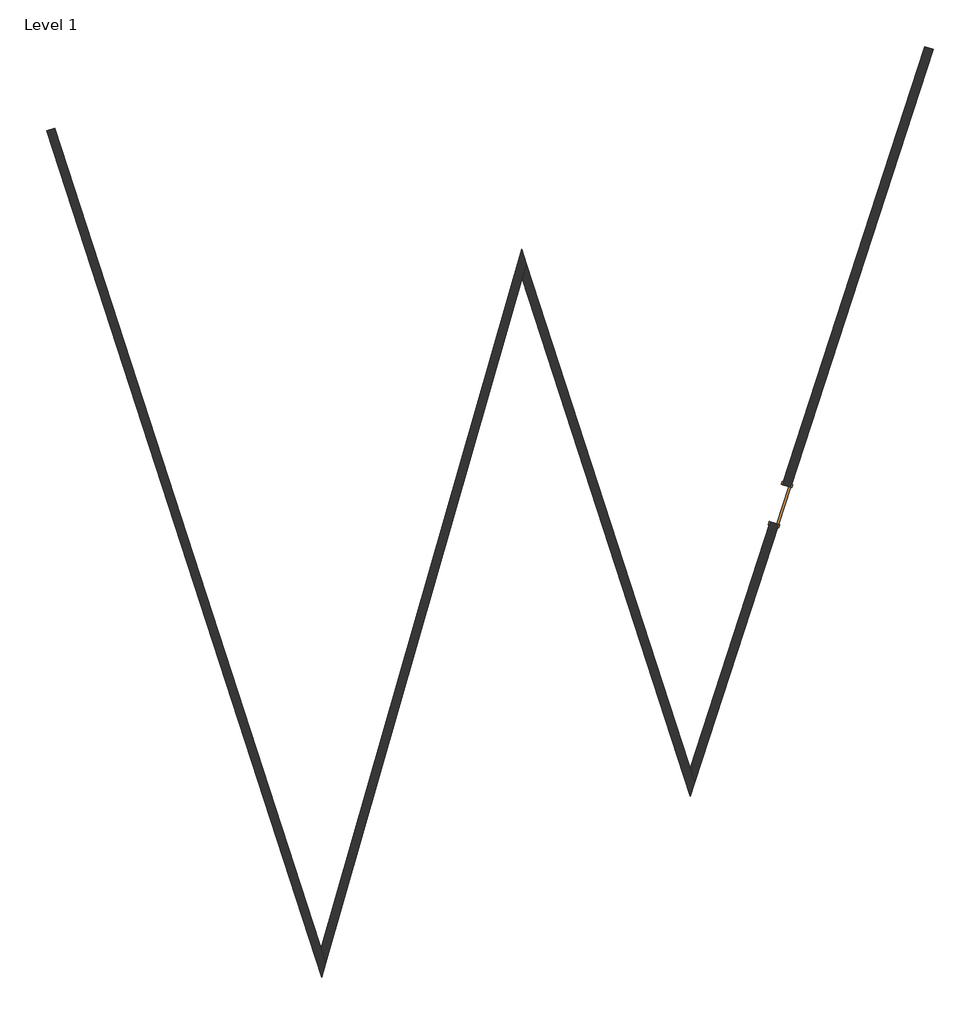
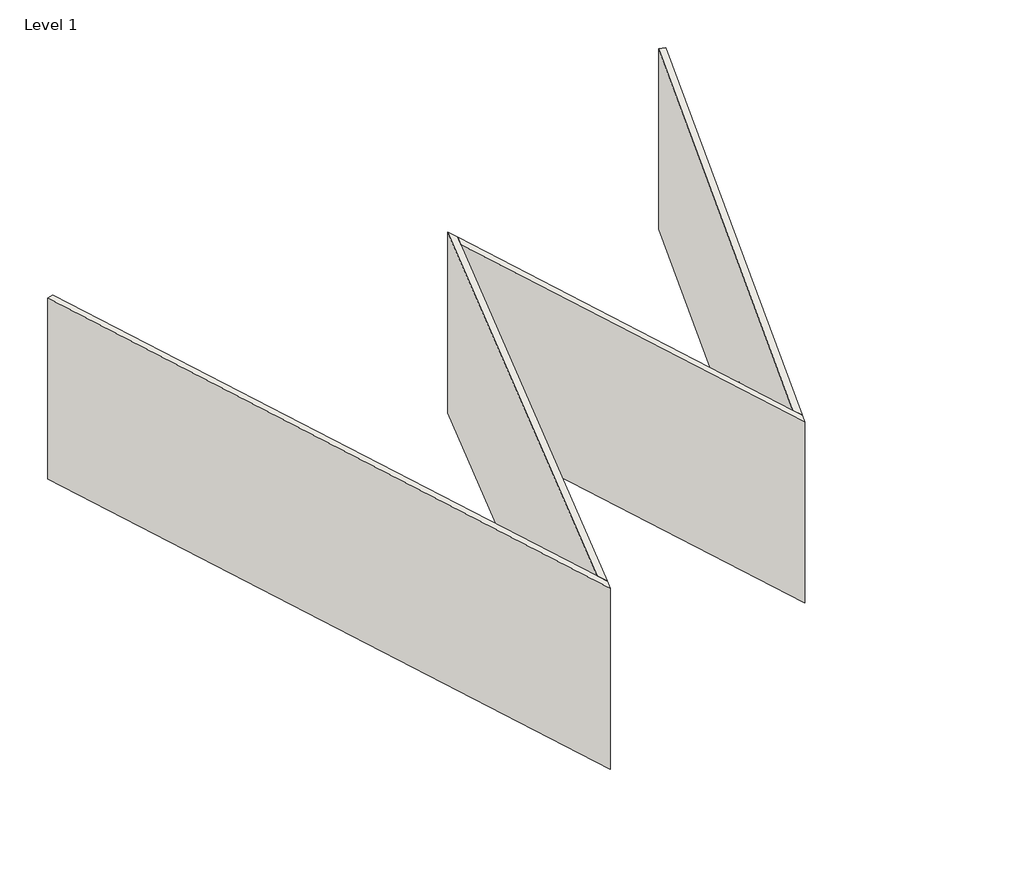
# One storey: 4 walls, 1 door.
"""IFC4 building model written with IfcOpenShell, lengths in millimetres."""

from ifc_helpers import new_model, si_unit, origin, place, context, project, spatial, faceted_brep, transform, mapped, element, save
from components import door_54dd4da4

model = new_model("IFC4")

# Units and contexts
model_context = context("Model", 3, world=origin())
ifc_project = project(units=[si_unit("LENGTHUNIT", "METRE", prefix="MILLI")], contexts=[model_context])

# Site, building, storey
site = spatial("IfcSite", under=ifc_project)
building = spatial("IfcBuilding", under=site)
storey = spatial("IfcBuildingStorey", under=building, Name="Level 1", Elevation=0.0)

# Door
placement = place(None, origin())
door_shape = door_54dd4da4(model_context)
element("IfcDoor", 1, ObjectType="Single-Flush : 36\" x 84\"", at=placement, inside=storey, context=model_context, shape_type="MappedRepresentation", body=[
    mapped(door_shape, transform((4584.3144934, 1652.0282297, 0.0), x_axis=(-0.30901699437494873, -0.9510565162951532, 0.0), y_axis=(0.9510565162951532, -0.30901699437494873, 0.0), z_axis=(0.0, 0.0, 1.0))),
])

# Walls
element("IfcWall", 2, ObjectType="Generic - 8\"", at=placement, inside=storey, context=model_context, shape_type="Brep", body=[
    faceted_brep([(-12649.9778925, 10432.784744, 0.0), (-6189.5701472, -9450.3058171, 0.0), (-6189.5701472, -9450.3058171, 6096.0), (-12649.9778925, 10432.784744, 6096.0), (-12456.7232084, 10495.5769972, 0.0), (-12456.7232084, 10495.5769972, 6096.0), (-6201.6996691, -8755.4059743, 6096.0), (-6089.4088069, -9101.0017122, 6096.0), (-6089.4088069, -9101.0017122, 0.0), (-6201.6996691, -8755.4059743, 0.0)], [[[0, 1, 2, 3]], [[4, 5, 6, 7, 8, 9]], [[1, 0, 4, 9, 8]], [[3, 2, 7, 6, 5]], [[0, 3, 5, 4]], [[2, 1, 8, 7]]]),
])
element("IfcWall", 3, ObjectType="Generic - 8\"", at=placement, inside=storey, context=model_context, shape_type="Brep", body=[
    faceted_brep([(-6089.4088069, -9101.0017122, 0.0), (-1484.7712483, 6957.2778186, 0.0), (-1384.609908, 7306.5819235, 0.0), (-1384.609908, 7306.5819235, 6096.0), (-1484.7712483, 6957.2778186, 6096.0), (-6089.4088069, -9101.0017122, 6096.0), (-6201.6996691, -8755.4059743, 0.0), (-6201.6996691, -8755.4059743, 6096.0), (-1496.9007701, 7652.1776614, 6096.0), (-1496.9007701, 7652.1776614, 0.0)], [[[0, 1, 2, 3, 4, 5]], [[6, 7, 8, 9]], [[2, 1, 0, 6, 9]], [[5, 4, 3, 8, 7]], [[0, 5, 7, 6]], [[3, 2, 9, 8]]]),
])
element("IfcWall", 4, ObjectType="Generic - 8\"", at=placement, inside=storey, context=model_context, shape_type="Brep", body=[
    faceted_brep([(-1484.7712483, 6957.2778186, 0.0), (2465.075946, -5199.1018656, 0.0), (2465.075946, -5199.1018656, 6096.0), (-1484.7712483, 6957.2778186, 6096.0), (-1384.609908, 7306.5819235, 0.0), (-1384.609908, 7306.5819235, 6096.0), (2465.075946, -4541.5328525, 6096.0), (2571.904508, -4870.317359, 6096.0), (2571.904508, -4870.317359, 0.0), (2465.075946, -4541.5328525, 0.0)], [[[0, 1, 2, 3]], [[4, 5, 6, 7, 8, 9]], [[1, 0, 4, 9, 8]], [[3, 2, 7, 6, 5]], [[0, 3, 5, 4]], [[2, 1, 8, 7]]]),
])
element("IfcWall", 5, ObjectType="Generic - 8\"", at=placement, inside=storey, context=model_context, shape_type="Brep", body=[
    faceted_brep([(2571.904508, -4870.317359, 0.0), (4539.6592656, 1185.8090638, 0.0), (4539.6592656, 1185.8090638, 2133.6), (4822.2244053, 2055.4551423, 2133.6), (4822.2244053, 2055.4551423, 0.0), (8165.9118912, 12346.2670712, 0.0), (8165.9118912, 12346.2670712, 6096.0), (2571.904508, -4870.317359, 6096.0), (4346.4045815, 1248.6013171, 2133.6), (4346.4045815, 1248.6013171, 0.0), (2465.075946, -4541.5328525, 0.0), (2465.075946, -4541.5328525, 6096.0), (7972.6572071, 12409.0593245, 6096.0), (7972.6572071, 12409.0593245, 0.0), (4628.9697212, 2118.2473956, 0.0), (4628.9697212, 2118.2473956, 2133.6)], [[[0, 1, 2, 3, 4, 5, 6, 7]], [[8, 9, 10, 11, 12, 13, 14, 15]], [[14, 13, 5, 4]], [[10, 9, 1, 0]], [[6, 5, 13, 12]], [[7, 6, 12, 11]], [[0, 7, 11, 10]], [[2, 1, 9, 8]], [[3, 2, 8, 15]], [[4, 3, 15, 14]]]),
])

save(model, "model.ifc")
